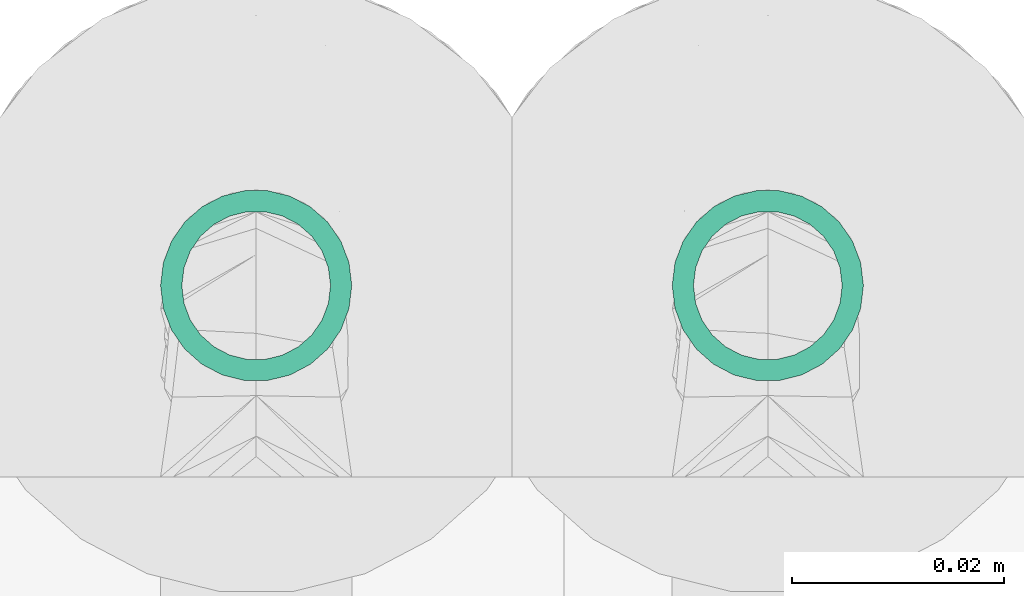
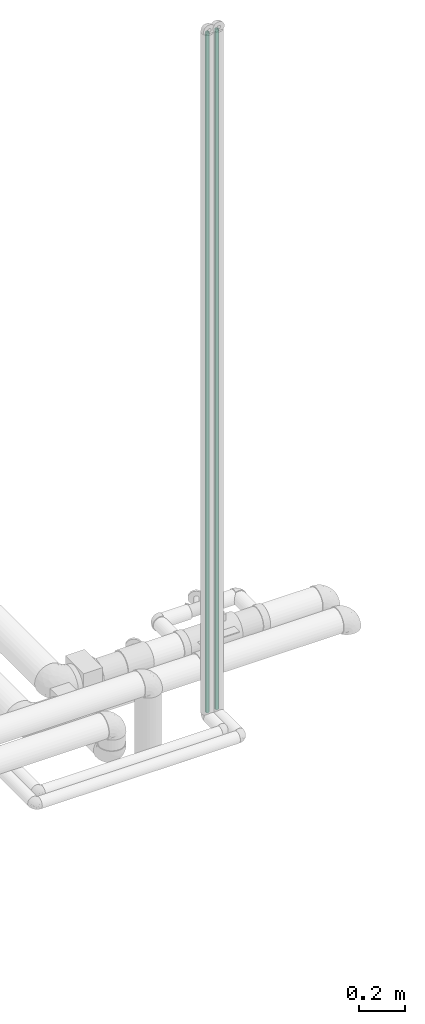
# One storey, part 27 of 83: 2 flow segments.
"""IFC2X3 building model written with IfcOpenShell, lengths in millimetres."""

from ifc_helpers import new_model, entity, si_unit, converted_unit, derived_unit, direction, frame, origin_with_axes, origin_2d_with_axis, place, context, subcontext, project, spatial, hollow_circle, extrude, source, transform, mapped, type_object, element, save


model = new_model("IFC2X3")

# Units and contexts
model_context = context("Model", 3, precision=0.01, world=frame((0.0, 4.29681676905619e-09, 0.0)), true_north=direction((4.01073788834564e-13, 1.0)))
plan_context = context("Plan", 3, precision=0.01, world=frame((0.0, 4.29681676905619e-09, 0.0)), true_north=direction((4.01073788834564e-13, 1.0)))
body_context = subcontext(model_context, "Body", "Model", "MODEL_VIEW")
ifc_project = project(units=[converted_unit("PLANEANGLEUNIT", "DEGREE", entity("IfcPositiveLengthMeasure", 0.0174532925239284), si_unit("PLANEANGLEUNIT", "RADIAN"), dimensions=[0, 0, 0, 0, 0, 0, 0]), si_unit("AREAUNIT", "SQUARE_METRE"), si_unit("LENGTHUNIT", "METRE", prefix="MILLI"), si_unit("MASSUNIT", "GRAM", prefix="KILO"), si_unit("POWERUNIT", "WATT"), si_unit("PRESSUREUNIT", "PASCAL"), si_unit("FORCEUNIT", "NEWTON", prefix="KILO"), si_unit("ELECTRICVOLTAGEUNIT", "VOLT"), si_unit("ELECTRICCURRENTUNIT", "AMPERE"), si_unit("THERMODYNAMICTEMPERATUREUNIT", "DEGREE_CELSIUS"), si_unit("TIMEUNIT", "SECOND"), si_unit("VOLUMEUNIT", "CUBIC_METRE"), derived_unit("LINEARVELOCITYUNIT", [(si_unit("LENGTHUNIT", "METRE"), 1), (si_unit("TIMEUNIT", "SECOND"), -1)]), derived_unit("VOLUMETRICFLOWRATEUNIT", [(si_unit("VOLUMEUNIT", "CUBIC_METRE"), 1), (si_unit("TIMEUNIT", "SECOND"), -1)]), derived_unit("THERMALTRANSMITTANCEUNIT", [(si_unit("POWERUNIT", "WATT"), 1), (si_unit("THERMODYNAMICTEMPERATUREUNIT", "KELVIN"), -1), (si_unit("AREAUNIT", "SQUARE_METRE"), -1)]), derived_unit("SOUNDPRESSUREUNIT", [(si_unit("PRESSUREUNIT", "PASCAL"), 1)])], contexts=[model_context, plan_context])

# Site, building, storey
site_placement = place(None, frame((0.0, -4.29681676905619e-09, 0.0), z_axis=(0.0, 0.0, 1.0), x_axis=(1.0, 0.0, 0.0)))
site = spatial("IfcSite", under=ifc_project, at=site_placement, Name="ENGM", CompositionType="ELEMENT")
building_placement = place(site_placement, frame((0.0, 4.29681676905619e-09, 0.0), z_axis=(0.0, 0.0, 1.0), x_axis=(1.0, 0.0, 0.0)))
building = spatial("IfcBuilding", under=site, at=building_placement, Name="TI", CompositionType="ELEMENT")
storey_placement = place(building_placement, frame((0.0, 0.0, 204000.0), z_axis=(0.0, 0.0, 1.0), x_axis=(1.0, 0.0, 0.0)))
storey = spatial("IfcBuildingStorey", under=building, at=storey_placement, Name="Nivå D", CompositionType="ELEMENT", Elevation=204000.0)

# Flow segments
pipe_segment_type = type_object("IfcPipeSegmentType", Name="Kobberrør", PredefinedType="RIGIDSEGMENT")
shared_shape = source(origin_with_axes(), body_context, "Body", "SweptSolid", [
    extrude(hollow_circle(Radius=9.0, WallThickness=2.0, at=origin_2d_with_axis()), frame((0.0, 0.0, 0.0), z_axis=(1.0, 0.0, 0.0), x_axis=(0.0, 1.0, 0.0)), (0.0, 0.0, 1.0), 3644.0),
])
for number, where, z_axis, x_axis in (
    (1, (609117.81817, 697559.51267, 5938.0), (0.0, 1.0, 0.0), (0.0, 0.0, 1.0)),
    (2, (609069.65402, 697559.51267, 5938.0), (0.0, 1.0, 0.0), (0.0, 0.0, 1.0)),
):
    element("IfcFlowSegment", number, at=place(storey_placement, frame(where, z_axis=z_axis, x_axis=x_axis)), inside=storey, type_object=pipe_segment_type, Name="Kobberrør", context=body_context, shape_type="MappedRepresentation", body=[
        mapped(shared_shape, transform((0.0, 0.0, 0.0), scale=1.0)),
    ])

save(model, "model.ifc")
